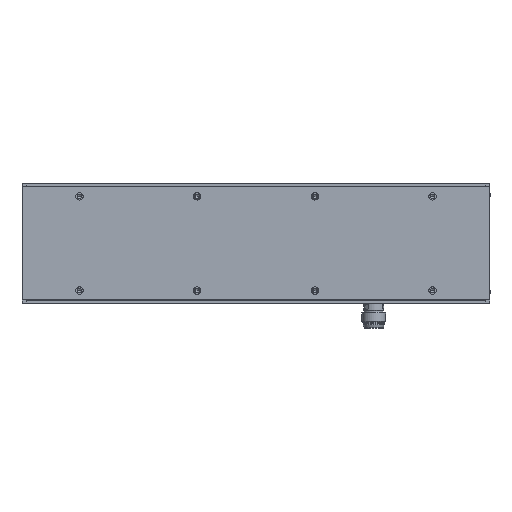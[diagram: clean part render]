
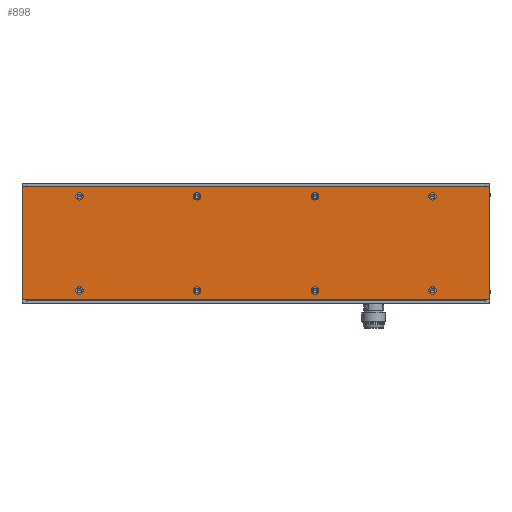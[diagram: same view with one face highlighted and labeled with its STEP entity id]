
A CAD part, top view. The second image highlights one B-rep face of the part: STEP entity #898.
In plain terms, the highlighted planar face has unit normal (0, 0, 1).
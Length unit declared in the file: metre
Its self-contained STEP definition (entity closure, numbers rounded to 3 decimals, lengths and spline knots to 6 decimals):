
#898=ADVANCED_FACE('0:762',(#2084,#2085,#2086,#2087,#2088,#2089,#2090,#2091,#2092),#2093,.T.);
#2084=FACE_OUTER_BOUND('',#3685,.T.);
#2085=FACE_BOUND('',#3686,.T.);
#2086=FACE_BOUND('',#3687,.T.);
#2087=FACE_BOUND('',#3688,.T.);
#2088=FACE_BOUND('',#3689,.T.);
#2089=FACE_BOUND('',#3690,.T.);
#2090=FACE_BOUND('',#3691,.T.);
#2091=FACE_BOUND('',#3692,.T.);
#2092=FACE_BOUND('',#3693,.T.);
#2093=PLANE('',#3694);
#3685=EDGE_LOOP('',(#6195,#6196,#6197,#6198));
#3686=EDGE_LOOP('',(#6199,#6200));
#3687=EDGE_LOOP('',(#6201,#6202));
#3688=EDGE_LOOP('',(#6203,#6204));
#3689=EDGE_LOOP('',(#6205,#6206));
#3690=EDGE_LOOP('',(#6207,#6208));
#3691=EDGE_LOOP('',(#6209,#6210));
#3692=EDGE_LOOP('',(#6211,#6212));
#3693=EDGE_LOOP('',(#6213,#6214));
#3694=AXIS2_PLACEMENT_3D('',#6215,#6216,#6217);
#6195=ORIENTED_EDGE('',*,*,#9675,.F.);
#6196=ORIENTED_EDGE('',*,*,#9676,.F.);
#6197=ORIENTED_EDGE('',*,*,#9312,.F.);
#6198=ORIENTED_EDGE('',*,*,#8877,.F.);
#6199=ORIENTED_EDGE('',*,*,#9677,.F.);
#6200=ORIENTED_EDGE('',*,*,#8966,.F.);
#6201=ORIENTED_EDGE('',*,*,#9678,.F.);
#6202=ORIENTED_EDGE('',*,*,#9679,.F.);
#6203=ORIENTED_EDGE('',*,*,#9680,.F.);
#6204=ORIENTED_EDGE('',*,*,#9681,.F.);
#6205=ORIENTED_EDGE('',*,*,#9682,.F.);
#6206=ORIENTED_EDGE('',*,*,#9209,.F.);
#6207=ORIENTED_EDGE('',*,*,#9683,.F.);
#6208=ORIENTED_EDGE('',*,*,#9684,.F.);
#6209=ORIENTED_EDGE('',*,*,#9636,.F.);
#6210=ORIENTED_EDGE('',*,*,#9685,.F.);
#6211=ORIENTED_EDGE('',*,*,#9686,.F.);
#6212=ORIENTED_EDGE('',*,*,#9687,.F.);
#6213=ORIENTED_EDGE('',*,*,#9198,.F.);
#6214=ORIENTED_EDGE('',*,*,#9688,.F.);
#6215=CARTESIAN_POINT('',(0.,0.000001,0.019992));
#6216=DIRECTION('',(0.0,0.,1.0));
#6217=DIRECTION('',(1.0,0.0,0.0));
#8877=EDGE_CURVE('0:2745',#10568,#10569,#10570,.T.);
#8966=EDGE_CURVE('',#10722,#10717,#10724,.T.);
#9198=EDGE_CURVE('0:1239',#11111,#11114,#11115,.T.);
#9209=EDGE_CURVE('',#11131,#11126,#11133,.T.);
#9312=EDGE_CURVE('0:2742',#10569,#11297,#11298,.T.);
#9636=EDGE_CURVE('0:1251',#11795,#11798,#11799,.T.);
#9675=EDGE_CURVE('0:2736',#11857,#10568,#11858,.T.);
#9676=EDGE_CURVE('0:2739',#11297,#11857,#11859,.T.);
#9677=EDGE_CURVE('0:1281',#10717,#10722,#11860,.T.);
#9678=EDGE_CURVE('0:1275',#11861,#11862,#11863,.T.);
#9679=EDGE_CURVE('',#11862,#11861,#11864,.T.);
#9680=EDGE_CURVE('0:1269',#11865,#11866,#11867,.T.);
#9681=EDGE_CURVE('',#11866,#11865,#11868,.T.);
#9682=EDGE_CURVE('0:1263',#11126,#11131,#11869,.T.);
#9683=EDGE_CURVE('0:1257',#11870,#11871,#11872,.T.);
#9684=EDGE_CURVE('',#11871,#11870,#11873,.T.);
#9685=EDGE_CURVE('',#11798,#11795,#11874,.T.);
#9686=EDGE_CURVE('0:1245',#11875,#11876,#11877,.T.);
#9687=EDGE_CURVE('',#11876,#11875,#11878,.T.);
#9688=EDGE_CURVE('',#11114,#11111,#11879,.T.);
#10568=VERTEX_POINT('',#13020);
#10569=VERTEX_POINT('',#13021);
#10570=LINE('',#13022,#13023);
#10717=VERTEX_POINT('',#13230);
#10722=VERTEX_POINT('',#13236);
#10724=CIRCLE('',#13239,0.00125);
#11111=VERTEX_POINT('',#13853);
#11114=VERTEX_POINT('',#13857);
#11115=CIRCLE('',#13858,0.00125);
#11126=VERTEX_POINT('',#13875);
#11131=VERTEX_POINT('',#13881);
#11133=CIRCLE('',#13884,0.00125);
#11297=VERTEX_POINT('',#14149);
#11298=LINE('',#14150,#14151);
#11795=VERTEX_POINT('',#14927);
#11798=VERTEX_POINT('',#14931);
#11799=CIRCLE('',#14932,0.00125);
#11857=VERTEX_POINT('',#15096);
#11858=LINE('',#15097,#15098);
#11859=LINE('',#15099,#15100);
#11860=CIRCLE('',#15101,0.00125);
#11861=VERTEX_POINT('',#15102);
#11862=VERTEX_POINT('',#15103);
#11863=CIRCLE('',#15104,0.00125);
#11864=CIRCLE('',#15105,0.00125);
#11865=VERTEX_POINT('',#15106);
#11866=VERTEX_POINT('',#15107);
#11867=CIRCLE('',#15108,0.00125);
#11868=CIRCLE('',#15109,0.00125);
#11869=CIRCLE('',#15110,0.00125);
#11870=VERTEX_POINT('',#15111);
#11871=VERTEX_POINT('',#15112);
#11872=CIRCLE('',#15113,0.00125);
#11873=CIRCLE('',#15114,0.00125);
#11874=CIRCLE('',#15115,0.00125);
#11875=VERTEX_POINT('',#15116);
#11876=VERTEX_POINT('',#15117);
#11877=CIRCLE('',#15118,0.00125);
#11878=CIRCLE('',#15119,0.00125);
#11879=CIRCLE('',#15120,0.00125);
#13020=CARTESIAN_POINT('',(0.0805,-0.019199,0.019992));
#13021=CARTESIAN_POINT('',(0.0805,0.019201,0.019992));
#13022=CARTESIAN_POINT('',(0.0805,0.000001,0.019992));
#13023=VECTOR('',#16956,1.0);
#13230=CARTESIAN_POINT('',(0.10125,-0.015999,0.019992));
#13236=CARTESIAN_POINT('',(0.09875,-0.015999,0.019992));
#13239=AXIS2_PLACEMENT_3D('',#17079,#17080,#17081);
#13853=CARTESIAN_POINT('',(0.22125,0.016001,0.019992));
#13857=CARTESIAN_POINT('',(0.21875,0.016001,0.019992));
#13858=AXIS2_PLACEMENT_3D('',#17404,#17405,#17406);
#13875=CARTESIAN_POINT('',(0.22125,-0.015999,0.019992));
#13881=CARTESIAN_POINT('',(0.21875,-0.015999,0.019992));
#13884=AXIS2_PLACEMENT_3D('',#17422,#17423,#17424);
#14149=CARTESIAN_POINT('',(0.2395,0.019201,0.019992));
#14150=CARTESIAN_POINT('',(0.24,0.019201,0.019992));
#14151=VECTOR('',#17569,1.0);
#14927=CARTESIAN_POINT('',(0.14125,0.016001,0.019992));
#14931=CARTESIAN_POINT('',(0.13875,0.016001,0.019992));
#14932=AXIS2_PLACEMENT_3D('',#17980,#17981,#17982);
#15096=CARTESIAN_POINT('',(0.2395,-0.019199,0.019992));
#15097=CARTESIAN_POINT('',(-0.24,-0.019199,0.019992));
#15098=VECTOR('',#18025,1.0);
#15099=CARTESIAN_POINT('',(0.2395,0.000001,0.019992));
#15100=VECTOR('',#18026,1.0);
#15101=AXIS2_PLACEMENT_3D('',#18027,#18028,#18029);
#15102=CARTESIAN_POINT('',(0.14125,-0.015999,0.019992));
#15103=CARTESIAN_POINT('',(0.13875,-0.015999,0.019992));
#15104=AXIS2_PLACEMENT_3D('',#18030,#18031,#18032);
#15105=AXIS2_PLACEMENT_3D('',#18033,#18034,#18035);
#15106=CARTESIAN_POINT('',(0.18125,-0.015999,0.019992));
#15107=CARTESIAN_POINT('',(0.17875,-0.015999,0.019992));
#15108=AXIS2_PLACEMENT_3D('',#18036,#18037,#18038);
#15109=AXIS2_PLACEMENT_3D('',#18039,#18040,#18041);
#15110=AXIS2_PLACEMENT_3D('',#18042,#18043,#18044);
#15111=CARTESIAN_POINT('',(0.10125,0.016001,0.019992));
#15112=CARTESIAN_POINT('',(0.09875,0.016001,0.019992));
#15113=AXIS2_PLACEMENT_3D('',#18045,#18046,#18047);
#15114=AXIS2_PLACEMENT_3D('',#18048,#18049,#18050);
#15115=AXIS2_PLACEMENT_3D('',#18051,#18052,#18053);
#15116=CARTESIAN_POINT('',(0.18125,0.016001,0.019992));
#15117=CARTESIAN_POINT('',(0.17875,0.016001,0.019992));
#15118=AXIS2_PLACEMENT_3D('',#18054,#18055,#18056);
#15119=AXIS2_PLACEMENT_3D('',#18057,#18058,#18059);
#15120=AXIS2_PLACEMENT_3D('',#18060,#18061,#18062);
#16956=DIRECTION('',(0.0,1.0,0.));
#17079=CARTESIAN_POINT('',(0.1,-0.015999,0.019992));
#17080=DIRECTION('',(0.,0.,1.0));
#17081=DIRECTION('',(1.0,0.,0.));
#17404=CARTESIAN_POINT('',(0.22,0.016001,0.019992));
#17405=DIRECTION('',(0.,0.,1.0));
#17406=DIRECTION('',(1.0,0.,0.));
#17422=CARTESIAN_POINT('',(0.22,-0.015999,0.019992));
#17423=DIRECTION('',(0.,0.,1.0));
#17424=DIRECTION('',(1.0,0.,0.));
#17569=DIRECTION('',(1.0,0.,0.0));
#17980=CARTESIAN_POINT('',(0.14,0.016001,0.019992));
#17981=DIRECTION('',(0.,0.,1.0));
#17982=DIRECTION('',(1.0,0.,0.));
#18025=DIRECTION('',(-1.0,0.,0.0));
#18026=DIRECTION('',(0.0,-1.0,0.));
#18027=CARTESIAN_POINT('',(0.1,-0.015999,0.019992));
#18028=DIRECTION('',(0.,0.,1.0));
#18029=DIRECTION('',(1.0,0.,0.));
#18030=CARTESIAN_POINT('',(0.14,-0.015999,0.019992));
#18031=DIRECTION('',(0.,0.,1.0));
#18032=DIRECTION('',(1.0,0.,0.));
#18033=CARTESIAN_POINT('',(0.14,-0.015999,0.019992));
#18034=DIRECTION('',(0.,0.,1.0));
#18035=DIRECTION('',(1.0,0.,0.));
#18036=CARTESIAN_POINT('',(0.18,-0.015999,0.019992));
#18037=DIRECTION('',(0.,0.,1.0));
#18038=DIRECTION('',(1.0,0.,0.));
#18039=CARTESIAN_POINT('',(0.18,-0.015999,0.019992));
#18040=DIRECTION('',(0.,0.,1.0));
#18041=DIRECTION('',(1.0,0.,0.));
#18042=CARTESIAN_POINT('',(0.22,-0.015999,0.019992));
#18043=DIRECTION('',(0.,0.,1.0));
#18044=DIRECTION('',(1.0,0.,0.));
#18045=CARTESIAN_POINT('',(0.1,0.016001,0.019992));
#18046=DIRECTION('',(0.,0.,1.0));
#18047=DIRECTION('',(1.0,0.,0.));
#18048=CARTESIAN_POINT('',(0.1,0.016001,0.019992));
#18049=DIRECTION('',(0.,0.,1.0));
#18050=DIRECTION('',(1.0,0.,0.));
#18051=CARTESIAN_POINT('',(0.14,0.016001,0.019992));
#18052=DIRECTION('',(0.,0.,1.0));
#18053=DIRECTION('',(1.0,0.,0.));
#18054=CARTESIAN_POINT('',(0.18,0.016001,0.019992));
#18055=DIRECTION('',(0.,0.,1.0));
#18056=DIRECTION('',(1.0,0.,0.));
#18057=CARTESIAN_POINT('',(0.18,0.016001,0.019992));
#18058=DIRECTION('',(0.,0.,1.0));
#18059=DIRECTION('',(1.0,0.,0.));
#18060=CARTESIAN_POINT('',(0.22,0.016001,0.019992));
#18061=DIRECTION('',(0.,0.,1.0));
#18062=DIRECTION('',(1.0,0.,0.));
